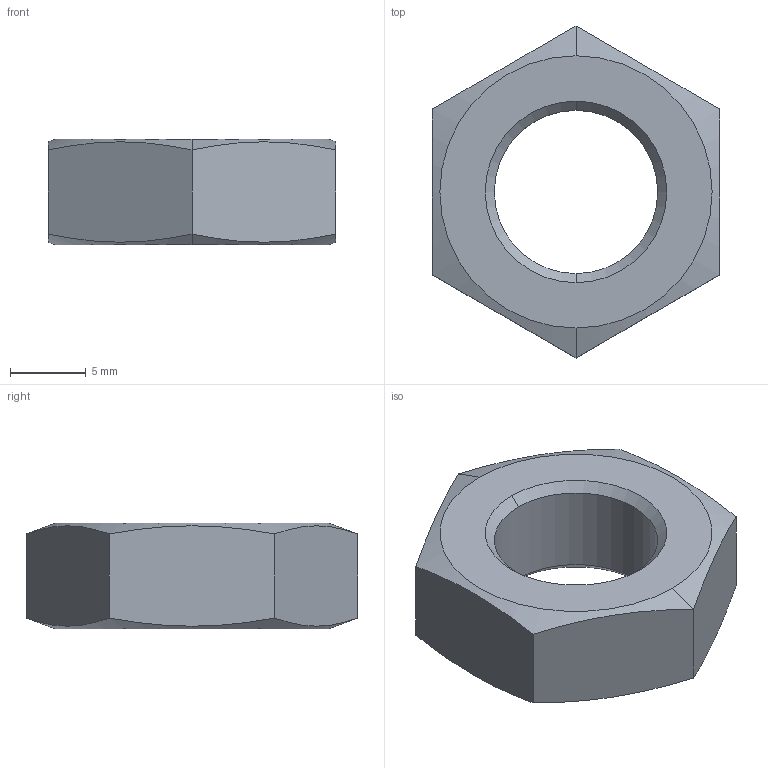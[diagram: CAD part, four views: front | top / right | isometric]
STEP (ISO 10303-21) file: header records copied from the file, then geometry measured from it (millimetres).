
FILE_DESCRIPTION((''),'2;1');
FILE_NAME('1823A00021','2024-11-18T11:32:39',('GND7HC'),(''),'CREO PARAMETRIC BY PTC INC, 2023092','CREO PARAMETRIC BY PTC INC, 2023092','');
FILE_SCHEMA(('CONFIG_CONTROL_DESIGN','SHAPE_APPEARANCE_LAYERS_GROUPS'));
Length unit declared in the file: millimetre
Products named in the file (1): 1823A00021
Bounding box: 19 x 21.94 x 7 mm (x, y, z)
Volume: 1509.2 mm3; surface area: 1076.7 mm2
Topology: 1 solids, 1 shells, 18 faces, 44 edges, 28 vertices
Faces by surface type: plane 8, cone 8, cylinder 2
Entity records: 896 total; most frequent: CARTESIAN_POINT 282, ORIENTED_EDGE 88, DIRECTION 84, PRESENTATION_STYLE_ASSIGNMENT 45, STYLED_ITEM 45, CURVE_STYLE 44, EDGE_CURVE 44, AXIS2_PLACEMENT_3D 34
